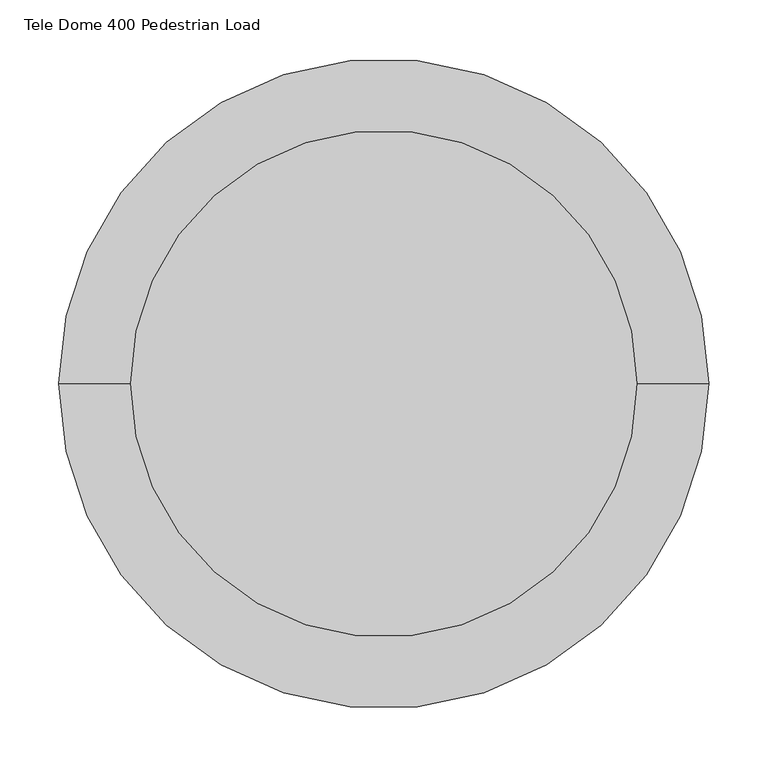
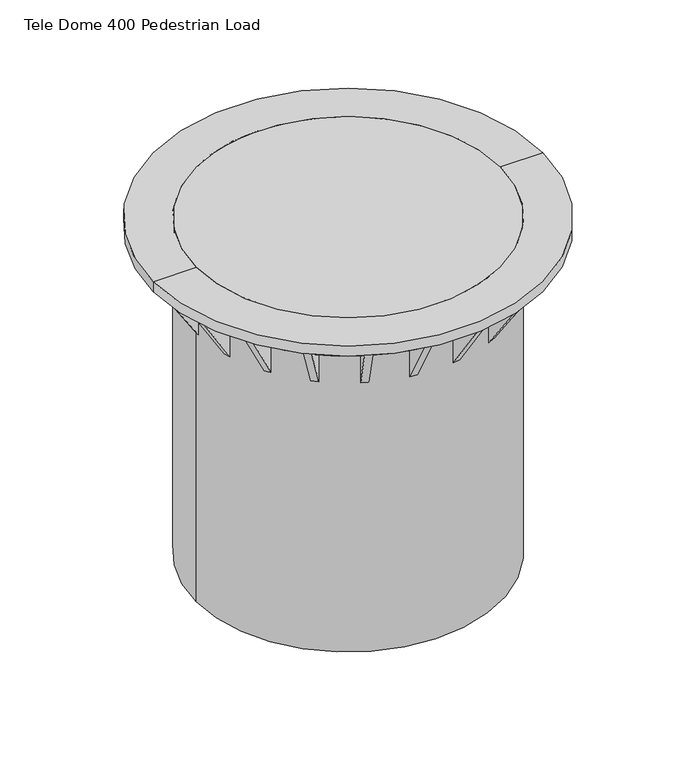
"""IFC4 building model written with IfcOpenShell, lengths in millimetres: proxy geometry, GRAF Tele Dome 400 Pedestrian Load : Tele Dome 400 Pedestrian Load."""

from ifc_helpers import new_model, si_unit, point, frame, origin, origin_2d, place, context, project, spatial, polyline, circle_curve, trimmed, segment, composite_curve, outline, extrude, source, transform, mapped, element, save
from ifc_brep_helpers import plane_surface, cylinder_surface, revolved_surface, advanced_brep


def tele_dome_400_pedestrian_load_5ff1a92a(model_context):
    return source(origin(), model_context, "Body", "SolidModel", [
        advanced_brep(
        [(215.0, 0.0, -14.9500624), (-215.0, 0.0, -14.9500624), (-275.5238115, 0.0, -14.9500624), (275.5238115, 0.0, -14.9500624), (-275.5238115, 0.0, 0.0), (275.5238115, 0.0, 0.0), (-215.0, 0.0, 0.0), (215.0, 0.0, 0.0)],
        [
            (0, 1, circle_curve(frame((0.0, 0.0, -14.9500624), z_axis=(0.0, 0.0, 1.0), x_axis=(-1.0, 0.0, 0.0)), 215.0)),
            (1, 2),
            (2, 3, circle_curve(frame((0.0, 0.0, -14.9500624), z_axis=(0.0, 0.0, -1.0), x_axis=(-1.0, 0.0, 0.0)), 275.5238115)),
            (3, 0),
            (1, 0, circle_curve(frame((0.0, 0.0, -14.9500624), z_axis=(0.0, 0.0, 1.0), x_axis=(-1.0, 0.0, 0.0)), 215.0)),
            (3, 2, circle_curve(frame((0.0, 0.0, -14.9500624), z_axis=(0.0, 0.0, -1.0), x_axis=(-1.0, 0.0, 0.0)), 275.5238115)),
            (2, 4),
            (4, 5, circle_curve(frame((0.0, 0.0, 0.0), z_axis=(0.0, 0.0, -1.0), x_axis=(-1.0, 0.0, 0.0)), 275.5238115)),
            (5, 3),
            (5, 4, circle_curve(frame((0.0, 0.0, 0.0), z_axis=(0.0, 0.0, -1.0), x_axis=(-1.0, 0.0, 0.0)), 275.5238115)),
            (4, 6),
            (6, 7, circle_curve(frame((0.0, 0.0, 0.0), z_axis=(0.0, 0.0, -1.0), x_axis=(-1.0, 0.0, 0.0)), 215.0)),
            (7, 5),
            (7, 6, circle_curve(frame((0.0, 0.0, 0.0), z_axis=(0.0, 0.0, -1.0), x_axis=(-1.0, 0.0, 0.0)), 215.0)),
            (6, 1),
            (0, 7),
        ],
        [
            plane_surface(frame((0.0, 0.0, -14.9500624), z_axis=(0.0, 0.0, -1.0), x_axis=(-1.0, 0.0, 0.0))),
            cylinder_surface(frame((0.0, 0.0, -119.9500624), z_axis=(0.0, 0.0, -1.0), x_axis=(-1.0, 0.0, 0.0)), 275.5238115),
            plane_surface(frame((0.0, 0.0, 0.0), z_axis=(0.0, 0.0, 1.0), x_axis=(-1.0, 0.0, 0.0))),
            revolved_surface(polyline([(-215.0, 0.0, -14.950062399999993), (-215.0, 0.0, 0.0)]), (0.0, 0.0, -119.9500624), (0.0, 0.0, -1.0)),
        ],
        [
            (0, [[1, 2, 3, 4]]),
            (0, [[5, -4, 6, -2]]),
            (1, [[-3, 7, 8, 9]]),
            (1, [[-6, -9, 10, -7]]),
            (2, [[-8, 11, 12, 13]]),
            (2, [[-10, -13, 14, -11]]),
            (3, [[-12, 15, -1, 16]]),
            (3, [[-14, -16, -5, -15]]),
        ],
    ),
        extrude(outline(composite_curve([segment(trimmed(circle_curve(origin_2d(), 215.0), [point((-215.0, 0.0))], [point((215.0, 0.0))], False, "CARTESIAN"), True, "CONTINUOUS"), segment(trimmed(circle_curve(origin_2d(), 215.0), [point((215.0, 0.0))], [point((-215.0, 0.0))], False, "CARTESIAN"), True, "CONTINUOUS")], self_intersect=False), holes=[composite_curve([segment(trimmed(circle_curve(origin_2d(), 202.0), [point((-202.0, 0.0))], [point((202.0, 0.0))], True, "CARTESIAN"), True, "CONTINUOUS"), segment(trimmed(circle_curve(origin_2d(), 202.0), [point((202.0, 0.0))], [point((-202.0, 0.0))], True, "CARTESIAN"), True, "CONTINUOUS")], self_intersect=False)]), frame((0.0, 0.0, -500.0), z_axis=(0.0, 0.0, 1.0), x_axis=(1.0, 0.0, 0.0)), (0.0, 0.0, 1.0), 485.0499376),
        extrude(outline(composite_curve([segment(trimmed(circle_curve(origin_2d(), 215.0), [point((-215.0, 0.0))], [point((215.0, 0.0))], False, "CARTESIAN"), True, "CONTINUOUS"), segment(trimmed(circle_curve(origin_2d(), 215.0), [point((215.0, 0.0))], [point((-215.0, 0.0))], False, "CARTESIAN"), True, "CONTINUOUS")], self_intersect=False)), frame((0.0, 0.0, -14.9500624), z_axis=(0.0, 0.0, 1.0), x_axis=(1.0, 0.0, 0.0)), (0.0, 0.0, 1.0), 14.9500624),
        extrude(outline(polyline([(82.4881085, 0.0), (82.4881085, -53.6625353), (0.0, 0.0), (82.4881085, 0.0)])), frame((-204.8823265, -65.3699646, -97.4381709), z_axis=(-0.28173255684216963, 0.9594929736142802, 0.0), x_axis=(0.0, 0.0, 1.0)), (0.0, 0.0, 1.0), 10.0),
        extrude(outline(polyline([(-14.9500624, -215.0), (-14.9500624, -268.6625353), (-97.4381709, -215.0), (-14.9500624, -215.0)])), frame((0.0, -5.0, 0.0), z_axis=(0.0, 1.0, 0.0), x_axis=(0.0, 0.0, 1.0)), (0.0, 0.0, 1.0), 10.0),
        extrude(outline(polyline([(0.0, 0.0), (53.6625353, 0.0), (0.0, -82.4881085), (0.0, 0.0)])), frame((-207.6996521, 55.7750349, -14.9500624), z_axis=(0.2817325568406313, 0.959492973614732, 0.0), x_axis=(-0.959492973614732, 0.2817325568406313, 0.0)), (0.0, 0.0, 1.0), 10.0),
        extrude(outline(polyline([(0.0, 0.0), (53.6625353, 0.0), (0.0, -82.4881085), (0.0, 0.0)])), frame((-137.0163099, -165.7604622, -14.9500624), z_axis=(-0.7557495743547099, 0.6548607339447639, 0.0), x_axis=(-0.6548607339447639, -0.7557495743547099, 0.0)), (0.0, 0.0, 1.0), 10.0),
        extrude(outline(polyline([(82.4881085, 0.0), (82.4881085, -53.6625353), (0.0, 0.0), (82.4881085, 0.0)])), frame((-178.1663055, -120.4440434, -97.4381709), z_axis=(-0.5406408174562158, 0.841253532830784, 0.0), x_axis=(0.0, 0.0, 1.0)), (0.0, 0.0, 1.0), 10.0),
        extrude(outline(polyline([(82.4881085, 0.0), (82.4881085, -53.6625352), (0.0, 0.0), (82.4881085, 0.0)])), frame((-84.7660678, -197.6479541, -97.4381709), z_axis=(-0.9096319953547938, 0.41541501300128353, 0.0), x_axis=(0.0, 0.0, 1.0)), (0.0, 0.0, 1.0), 10.0),
        extrude(outline(polyline([(82.4881085, 0.0), (82.4881085, -53.6625353), (0.0, 0.0), (82.4881085, 0.0)])), frame((-25.648583, -213.5231842, -97.4381709), z_axis=(-0.9898214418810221, 0.14231483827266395, 0.0), x_axis=(0.0, 0.0, 1.0)), (0.0, 0.0, 1.0), 10.0),
        extrude(outline(polyline([(-14.9500624, 215.0), (-97.4381709, 215.0), (-14.9500624, 268.6625353), (-14.9500624, 215.0)])), frame((0.0, -5.0, 0.0), z_axis=(0.0, 1.0, 0.0), x_axis=(0.0, 0.0, 1.0)), (0.0, 0.0, 1.0), 10.0),
        extrude(outline(polyline([(-82.4881085, 0.0), (0.0, 0.0), (-82.4881085, -53.6625353), (-82.4881085, 0.0)])), frame((207.6996521, 55.7750349, -97.4381709), z_axis=(-0.28173255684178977, 0.9594929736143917, 0.0), x_axis=(0.0, 0.0, -1.0)), (0.0, 0.0, 1.0), 10.0),
        extrude(outline(polyline([(-82.4881085, 0.0), (0.0, 0.0), (-82.4881085, -53.6625353), (-82.4881085, 0.0)])), frame((183.5727136, 112.0315081, -97.4381709), z_axis=(-0.5406408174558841, 0.8412535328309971, 0.0), x_axis=(0.0, 0.0, -1.0)), (0.0, 0.0, 1.0), 10.0),
        extrude(outline(polyline([(-82.4881085, 0.0), (0.0, 0.0), (-82.4881085, -53.6625353), (-82.4881085, 0.0)])), frame((178.1663055, -120.4440434, -97.4381709), z_axis=(0.5406408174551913, 0.8412535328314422, 0.0), x_axis=(0.0, 0.0, -1.0)), (0.0, 0.0, 1.0), 10.0),
        extrude(outline(polyline([(0.0, 0.0), (0.0, -82.4881085), (-53.6625353, 0.0), (0.0, 0.0)])), frame((204.8823265, -65.3699646, -14.9500624), z_axis=(0.2817325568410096, 0.9594929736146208, 0.0), x_axis=(-0.9594929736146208, 0.2817325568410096, 0.0)), (0.0, 0.0, 1.0), 10.0),
        extrude(outline(polyline([(0.0, 0.0), (0.0, -82.4881085), (-53.6625353, 0.0), (0.0, 0.0)])), frame((137.0163099, -165.7604622, -14.9500624), z_axis=(0.7557495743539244, 0.6548607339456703, 0.0), x_axis=(-0.6548607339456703, 0.7557495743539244, 0.0)), (0.0, 0.0, 1.0), 10.0),
        extrude(outline(polyline([(0.0, 0.0), (0.0, -82.4881085), (-53.6625352, 0.0), (0.0, 0.0)])), frame((84.7660678, -197.6479541, -14.9500624), z_axis=(0.909631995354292, 0.4154150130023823, 0.0), x_axis=(-0.4154150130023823, 0.909631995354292, 0.0)), (0.0, 0.0, 1.0), 10.0),
        extrude(outline(polyline([(-82.4881085, 0.0), (0.0, 0.0), (-82.4881085, -53.6625353), (-82.4881085, 0.0)])), frame((25.648583, -213.5231842, -97.4381709), z_axis=(0.9898214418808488, 0.1423148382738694, 0.0), x_axis=(0.0, 0.0, -1.0)), (0.0, 0.0, 1.0), 10.0),
        extrude(outline(polyline([(82.4881085, 0.0), (82.4881085, -53.6625353), (0.0, 0.0), (82.4881085, 0.0)])), frame((-35.5467974, 212.1000358, -97.4381709), z_axis=(0.9898214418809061, 0.1423148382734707, 0.0), x_axis=(0.0, 0.0, 1.0)), (0.0, 0.0, 1.0), 10.0),
        extrude(outline(polyline([(0.0, 0.0), (0.0, -82.4881085), (-53.6625353, 0.0), (0.0, 0.0)])), frame((35.5467974, 212.1000358, -14.9500624), z_axis=(-0.9898214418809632, 0.14231483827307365, 0.0), x_axis=(-0.14231483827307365, -0.9898214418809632, 0.0)), (0.0, 0.0, 1.0), 10.0),
        extrude(outline(polyline([(0.0, 0.0), (0.0, -82.4881085), (-53.6625353, 0.0), (0.0, 0.0)])), frame((93.8623878, 193.4938039, -14.9500624), z_axis=(-0.9096319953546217, 0.41541501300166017, 0.0), x_axis=(-0.41541501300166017, -0.9096319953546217, 0.0)), (0.0, 0.0, 1.0), 10.0),
        extrude(outline(polyline([(-82.4881085, 0.0), (0.0, 0.0), (-82.4881085, -53.6625353), (-82.4881085, 0.0)])), frame((144.5738057, 159.2118548, -97.4381709), z_axis=(-0.7557495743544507, 0.6548607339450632, 0.0), x_axis=(0.0, 0.0, -1.0)), (0.0, 0.0, 1.0), 10.0),
        extrude(outline(polyline([(0.0, 0.0), (53.6625353, 0.0), (0.0, -82.4881085), (0.0, 0.0)])), frame((-144.5738057, 159.2118548, -14.9500624), z_axis=(0.7557495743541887, 0.6548607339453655, 0.0), x_axis=(-0.6548607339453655, 0.7557495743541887, 0.0)), (0.0, 0.0, 1.0), 10.0),
        extrude(outline(polyline([(82.4881085, 0.0), (82.4881085, -53.6625353), (0.0, 0.0), (82.4881085, 0.0)])), frame((-93.8623878, 193.4938039, -97.4381709), z_axis=(0.9096319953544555, 0.4154150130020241, 0.0), x_axis=(0.0, 0.0, 1.0)), (0.0, 0.0, 1.0), 10.0),
        extrude(outline(polyline([(82.4881085, 0.0), (82.4881085, -53.6625353), (0.0, 0.0), (82.4881085, 0.0)])), frame((-183.5727136, 112.0315081, -97.4381709), z_axis=(0.5406408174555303, 0.8412535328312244, 0.0), x_axis=(0.0, 0.0, 1.0)), (0.0, 0.0, 1.0), 10.0),
        extrude(outline(polyline([(82.4881085, 0.0), (82.4881085, -53.6625353), (0.0, 0.0), (82.4881085, 0.0)])), frame((-207.6996521, 55.7750349, -97.4381709), z_axis=(0.28173255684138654, 0.9594929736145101, 0.0), x_axis=(0.0, 0.0, 1.0)), (0.0, 0.0, 1.0), 10.0),
        extrude(outline(polyline([(-14.9500624, -215.0), (-14.9500624, -268.6625353), (-97.4381709, -215.0), (-14.9500624, -215.0)])), frame((0.0, -5.0, 0.0), z_axis=(0.0, 1.0, 0.0), x_axis=(0.0, 0.0, 1.0)), (0.0, 0.0, 1.0), 10.0),
        extrude(outline(composite_curve([segment(polyline([(-214.9418526, 5.0), (-239.947911, 5.0)]), True, "CONTINUOUS"), segment(trimmed(circle_curve(origin_2d(), 240.0), [point((-239.947911, 5.0))], [point((-231.6369974, 62.8036736))], False, "CARTESIAN"), True, "CONTINUOUS"), segment(polyline([(-231.6369974, 62.8036736), (-207.6438601, 55.7586528)]), True, "CONTINUOUS"), segment(trimmed(circle_curve(origin_2d(), 215.0), [point((-207.6438601, 55.7586528))], [point((-214.9418526, 5.0))], True, "CARTESIAN"), True, "CONTINUOUS")], self_intersect=False)), frame((0.0, 0.0, -40.0), z_axis=(0.0, 0.0, 1.0), x_axis=(1.0, 0.0, 0.0)), (0.0, 0.0, 1.0), 25.0499376),
        extrude(outline(composite_curve([segment(trimmed(circle_curve(origin_2d(), 215.0), [point((-183.5237969, 112.0000712))], [point((-204.8265345, 65.3535826))], True, "CARTESIAN"), True, "CONTINUOUS"), segment(polyline([(-204.8265345, 65.3535826), (-228.8196719, 72.3986033)]), True, "CONTINUOUS"), segment(trimmed(circle_curve(origin_2d(), 240.0), [point((-228.8196719, 72.3986033))], [point((-204.5602319, 125.5193671))], False, "CARTESIAN"), True, "CONTINUOUS"), segment(polyline([(-204.5602319, 125.5193671), (-183.5237969, 112.0000712)]), True, "CONTINUOUS")], self_intersect=False)), frame((0.0, 0.0, -40.0), z_axis=(0.0, 0.0, 1.0), x_axis=(1.0, 0.0, 0.0)), (0.0, 0.0, 1.0), 25.0499376),
        extrude(outline(composite_curve([segment(polyline([(-178.1173888, 120.4126066), (-199.1538237, 133.9319024)]), True, "CONTINUOUS"), segment(trimmed(circle_curve(origin_2d(), 240.0), [point((-199.1538237, 133.9319024))], [point((-160.911213, 178.0662279))], False, "CARTESIAN"), True, "CONTINUOUS"), segment(polyline([(-160.911213, 178.0662279), (-144.5357272, 159.1679099)]), True, "CONTINUOUS"), segment(trimmed(circle_curve(origin_2d(), 215.0), [point((-144.5357272, 159.1679099))], [point((-178.1173888, 120.4126066))], True, "CARTESIAN"), True, "CONTINUOUS")], self_intersect=False)), frame((0.0, 0.0, -40.0), z_axis=(0.0, 0.0, 1.0), x_axis=(1.0, 0.0, 0.0)), (0.0, 0.0, 1.0), 25.0499376),
        extrude(outline(composite_curve([segment(trimmed(circle_curve(origin_2d(), 215.0), [point((-93.8382325, 193.4409112))], [point((-136.9782315, 165.7165173))], True, "CARTESIAN"), True, "CONTINUOUS"), segment(polyline([(-136.9782315, 165.7165173), (-153.3537172, 184.6148353)]), True, "CONTINUOUS"), segment(trimmed(circle_curve(origin_2d(), 240.0), [point((-153.3537172, 184.6148353))], [point((-104.2261246, 216.187222))], False, "CARTESIAN"), True, "CONTINUOUS"), segment(polyline([(-104.2261246, 216.187222), (-93.8382325, 193.4409112)]), True, "CONTINUOUS")], self_intersect=False)), frame((0.0, 0.0, -40.0), z_axis=(0.0, 0.0, 1.0), x_axis=(1.0, 0.0, 0.0)), (0.0, 0.0, 1.0), 25.0499376),
        extrude(outline(composite_curve([segment(trimmed(circle_curve(origin_2d(), 215.0), [point((136.9782315, 165.7165173))], [point((93.8382325, 193.4409112))], True, "CARTESIAN"), True, "CONTINUOUS"), segment(polyline([(93.8382325, 193.4409112), (104.2261246, 216.187222)]), True, "CONTINUOUS"), segment(trimmed(circle_curve(origin_2d(), 240.0), [point((104.2261246, 216.187222))], [point((153.3537172, 184.6148353))], False, "CARTESIAN"), True, "CONTINUOUS"), segment(polyline([(153.3537172, 184.6148353), (136.9782315, 165.7165173)]), True, "CONTINUOUS")], self_intersect=False)), frame((0.0, 0.0, -40.0), z_axis=(0.0, 0.0, 1.0), x_axis=(1.0, 0.0, 0.0)), (0.0, 0.0, 1.0), 25.0499376),
        extrude(outline(composite_curve([segment(polyline([(35.5385222, 212.0424803), (39.0972554, 236.7940131)]), True, "CONTINUOUS"), segment(trimmed(circle_curve(origin_2d(), 240.0), [point((39.0972554, 236.7940131))], [point((95.1298046, 220.3413721))], False, "CARTESIAN"), True, "CONTINUOUS"), segment(polyline([(95.1298046, 220.3413721), (84.7419125, 197.5950613)]), True, "CONTINUOUS"), segment(trimmed(circle_curve(origin_2d(), 215.0), [point((84.7419125, 197.5950613))], [point((35.5385222, 212.0424803))], True, "CARTESIAN"), True, "CONTINUOUS")], self_intersect=False)), frame((0.0, 0.0, -40.0), z_axis=(0.0, 0.0, 1.0), x_axis=(1.0, 0.0, 0.0)), (0.0, 0.0, 1.0), 25.0499376),
        extrude(outline(composite_curve([segment(trimmed(circle_curve(origin_2d(), 215.0), [point((25.6403078, 213.4656287))], [point((-25.6403078, 213.4656287))], True, "CARTESIAN"), True, "CONTINUOUS"), segment(polyline([(-25.6403078, 213.4656287), (-29.1990409, 238.2171614)]), True, "CONTINUOUS"), segment(trimmed(circle_curve(origin_2d(), 240.0), [point((-29.1990409, 238.2171614))], [point((29.1990409, 238.2171614))], False, "CARTESIAN"), True, "CONTINUOUS"), segment(polyline([(29.1990409, 238.2171614), (25.6403078, 213.4656287)]), True, "CONTINUOUS")], self_intersect=False)), frame((0.0, 0.0, -40.0), z_axis=(0.0, 0.0, 1.0), x_axis=(1.0, 0.0, 0.0)), (0.0, 0.0, 1.0), 25.0499376),
        extrude(outline(composite_curve([segment(polyline([(-84.7419125, 197.5950613), (-95.1298046, 220.3413721)]), True, "CONTINUOUS"), segment(trimmed(circle_curve(origin_2d(), 240.0), [point((-95.1298046, 220.3413721))], [point((-39.0972554, 236.7940131))], False, "CARTESIAN"), True, "CONTINUOUS"), segment(polyline([(-39.0972554, 236.7940131), (-35.5385222, 212.0424803)]), True, "CONTINUOUS"), segment(trimmed(circle_curve(origin_2d(), 215.0), [point((-35.5385222, 212.0424803))], [point((-84.7419125, 197.5950613))], True, "CARTESIAN"), True, "CONTINUOUS")], self_intersect=False)), frame((0.0, 0.0, -40.0), z_axis=(0.0, 0.0, 1.0), x_axis=(1.0, 0.0, 0.0)), (0.0, 0.0, 1.0), 25.0499376),
        extrude(outline(composite_curve([segment(trimmed(circle_curve(origin_2d(), 215.0), [point((35.5385222, -212.0424803))], [point((84.7419125, -197.5950613))], True, "CARTESIAN"), True, "CONTINUOUS"), segment(polyline([(84.7419125, -197.5950613), (95.1298046, -220.3413721)]), True, "CONTINUOUS"), segment(trimmed(circle_curve(origin_2d(), 240.0), [point((95.1298046, -220.3413721))], [point((39.0972554, -236.7940131))], False, "CARTESIAN"), True, "CONTINUOUS"), segment(polyline([(39.0972554, -236.7940131), (35.5385222, -212.0424803)]), True, "CONTINUOUS")], self_intersect=False)), frame((0.0, 0.0, -40.0), z_axis=(0.0, 0.0, 1.0), x_axis=(1.0, 0.0, 0.0)), (0.0, 0.0, 1.0), 25.0499376),
        extrude(outline(composite_curve([segment(polyline([(136.9782315, -165.7165173), (153.3537172, -184.6148353)]), True, "CONTINUOUS"), segment(trimmed(circle_curve(origin_2d(), 240.0), [point((153.3537172, -184.6148353))], [point((104.2261246, -216.187222))], False, "CARTESIAN"), True, "CONTINUOUS"), segment(polyline([(104.2261246, -216.187222), (93.8382325, -193.4409112)]), True, "CONTINUOUS"), segment(trimmed(circle_curve(origin_2d(), 215.0), [point((93.8382325, -193.4409112))], [point((136.9782315, -165.7165173))], True, "CARTESIAN"), True, "CONTINUOUS")], self_intersect=False)), frame((0.0, 0.0, -40.0), z_axis=(0.0, 0.0, 1.0), x_axis=(1.0, 0.0, 0.0)), (0.0, 0.0, 1.0), 25.0499376),
        extrude(outline(composite_curve([segment(trimmed(circle_curve(origin_2d(), 215.0), [point((144.5357272, -159.1679099))], [point((178.1173888, -120.4126066))], True, "CARTESIAN"), True, "CONTINUOUS"), segment(polyline([(178.1173888, -120.4126066), (199.1538237, -133.9319024)]), True, "CONTINUOUS"), segment(trimmed(circle_curve(origin_2d(), 240.0), [point((199.1538237, -133.9319024))], [point((160.911213, -178.0662279))], False, "CARTESIAN"), True, "CONTINUOUS"), segment(polyline([(160.911213, -178.0662279), (144.5357272, -159.1679099)]), True, "CONTINUOUS")], self_intersect=False)), frame((0.0, 0.0, -40.0), z_axis=(0.0, 0.0, 1.0), x_axis=(1.0, 0.0, 0.0)), (0.0, 0.0, 1.0), 25.0499376),
        extrude(outline(composite_curve([segment(polyline([(204.8265345, -65.3535826), (228.8196719, -72.3986033)]), True, "CONTINUOUS"), segment(trimmed(circle_curve(origin_2d(), 240.0), [point((228.8196719, -72.3986033))], [point((204.5602319, -125.5193671))], False, "CARTESIAN"), True, "CONTINUOUS"), segment(polyline([(204.5602319, -125.5193671), (183.5237969, -112.0000712)]), True, "CONTINUOUS"), segment(trimmed(circle_curve(origin_2d(), 215.0), [point((183.5237969, -112.0000712))], [point((204.8265345, -65.3535826))], True, "CARTESIAN"), True, "CONTINUOUS")], self_intersect=False)), frame((0.0, 0.0, -40.0), z_axis=(0.0, 0.0, 1.0), x_axis=(1.0, 0.0, 0.0)), (0.0, 0.0, 1.0), 25.0499376),
        extrude(outline(composite_curve([segment(polyline([(144.5357272, 159.1679099), (160.911213, 178.0662279)]), True, "CONTINUOUS"), segment(trimmed(circle_curve(origin_2d(), 240.0), [point((160.911213, 178.0662279))], [point((199.1538237, 133.9319024))], False, "CARTESIAN"), True, "CONTINUOUS"), segment(polyline([(199.1538237, 133.9319024), (178.1173888, 120.4126066)]), True, "CONTINUOUS"), segment(trimmed(circle_curve(origin_2d(), 215.0), [point((178.1173888, 120.4126066))], [point((144.5357272, 159.1679099))], True, "CARTESIAN"), True, "CONTINUOUS")], self_intersect=False)), frame((0.0, 0.0, -40.0), z_axis=(0.0, 0.0, 1.0), x_axis=(1.0, 0.0, 0.0)), (0.0, 0.0, 1.0), 25.0499376),
        extrude(outline(composite_curve([segment(trimmed(circle_curve(origin_2d(), 215.0), [point((204.8265345, 65.3535826))], [point((183.5237969, 112.0000712))], True, "CARTESIAN"), True, "CONTINUOUS"), segment(polyline([(183.5237969, 112.0000712), (204.5602319, 125.5193671)]), True, "CONTINUOUS"), segment(trimmed(circle_curve(origin_2d(), 240.0), [point((204.5602319, 125.5193671))], [point((228.8196719, 72.3986033))], False, "CARTESIAN"), True, "CONTINUOUS"), segment(polyline([(228.8196719, 72.3986033), (204.8265345, 65.3535826)]), True, "CONTINUOUS")], self_intersect=False)), frame((0.0, 0.0, -40.0), z_axis=(0.0, 0.0, 1.0), x_axis=(1.0, 0.0, 0.0)), (0.0, 0.0, 1.0), 25.0499376),
        extrude(outline(composite_curve([segment(polyline([(207.6438601, 55.7586528), (231.6369974, 62.8036736)]), True, "CONTINUOUS"), segment(trimmed(circle_curve(origin_2d(), 240.0), [point((231.6369974, 62.8036736))], [point((239.947911, 5.0))], False, "CARTESIAN"), True, "CONTINUOUS"), segment(polyline([(239.947911, 5.0), (214.9418526, 5.0)]), True, "CONTINUOUS"), segment(trimmed(circle_curve(origin_2d(), 215.0), [point((214.9418526, 5.0))], [point((207.6438601, 55.7586528))], True, "CARTESIAN"), True, "CONTINUOUS")], self_intersect=False)), frame((0.0, 0.0, -40.0), z_axis=(0.0, 0.0, 1.0), x_axis=(1.0, 0.0, 0.0)), (0.0, 0.0, 1.0), 25.0499376),
        extrude(outline(composite_curve([segment(trimmed(circle_curve(origin_2d(), 215.0), [point((207.6438601, -55.7586528))], [point((214.9418526, -5.0))], True, "CARTESIAN"), True, "CONTINUOUS"), segment(polyline([(214.9418526, -5.0), (239.947911, -5.0)]), True, "CONTINUOUS"), segment(trimmed(circle_curve(origin_2d(), 240.0), [point((239.947911, -5.0))], [point((231.6369974, -62.8036736))], False, "CARTESIAN"), True, "CONTINUOUS"), segment(polyline([(231.6369974, -62.8036736), (207.6438601, -55.7586528)]), True, "CONTINUOUS")], self_intersect=False)), frame((0.0, 0.0, -40.0), z_axis=(0.0, 0.0, 1.0), x_axis=(1.0, 0.0, 0.0)), (0.0, 0.0, 1.0), 25.0499376),
        extrude(outline(composite_curve([segment(polyline([(25.6403078, -213.4656287), (29.1990409, -238.2171614)]), True, "CONTINUOUS"), segment(trimmed(circle_curve(origin_2d(), 240.0), [point((29.1990409, -238.2171614))], [point((-29.1990409, -238.2171614))], False, "CARTESIAN"), True, "CONTINUOUS"), segment(polyline([(-29.1990409, -238.2171614), (-25.6403078, -213.4656287)]), True, "CONTINUOUS"), segment(trimmed(circle_curve(origin_2d(), 215.0), [point((-25.6403078, -213.4656287))], [point((25.6403078, -213.4656287))], True, "CARTESIAN"), True, "CONTINUOUS")], self_intersect=False)), frame((0.0, 0.0, -40.0), z_axis=(0.0, 0.0, 1.0), x_axis=(1.0, 0.0, 0.0)), (0.0, 0.0, 1.0), 25.0499376),
        extrude(outline(composite_curve([segment(trimmed(circle_curve(origin_2d(), 215.0), [point((-84.7419125, -197.5950613))], [point((-35.5385222, -212.0424803))], True, "CARTESIAN"), True, "CONTINUOUS"), segment(polyline([(-35.5385222, -212.0424803), (-39.0972554, -236.7940131)]), True, "CONTINUOUS"), segment(trimmed(circle_curve(origin_2d(), 240.0), [point((-39.0972554, -236.7940131))], [point((-95.1298046, -220.3413721))], False, "CARTESIAN"), True, "CONTINUOUS"), segment(polyline([(-95.1298046, -220.3413721), (-84.7419125, -197.5950613)]), True, "CONTINUOUS")], self_intersect=False)), frame((0.0, 0.0, -40.0), z_axis=(0.0, 0.0, 1.0), x_axis=(1.0, 0.0, 0.0)), (0.0, 0.0, 1.0), 25.0499376),
        extrude(outline(composite_curve([segment(polyline([(-93.8382325, -193.4409112), (-104.2261246, -216.187222)]), True, "CONTINUOUS"), segment(trimmed(circle_curve(origin_2d(), 240.0), [point((-104.2261246, -216.187222))], [point((-153.3537172, -184.6148353))], False, "CARTESIAN"), True, "CONTINUOUS"), segment(polyline([(-153.3537172, -184.6148353), (-136.9782315, -165.7165173)]), True, "CONTINUOUS"), segment(trimmed(circle_curve(origin_2d(), 215.0), [point((-136.9782315, -165.7165173))], [point((-93.8382325, -193.4409112))], True, "CARTESIAN"), True, "CONTINUOUS")], self_intersect=False)), frame((0.0, 0.0, -40.0), z_axis=(0.0, 0.0, 1.0), x_axis=(1.0, 0.0, 0.0)), (0.0, 0.0, 1.0), 25.0499376),
        extrude(outline(composite_curve([segment(trimmed(circle_curve(origin_2d(), 215.0), [point((-178.1173888, -120.4126066))], [point((-144.5357272, -159.1679099))], True, "CARTESIAN"), True, "CONTINUOUS"), segment(polyline([(-144.5357272, -159.1679099), (-160.911213, -178.0662279)]), True, "CONTINUOUS"), segment(trimmed(circle_curve(origin_2d(), 240.0), [point((-160.911213, -178.0662279))], [point((-199.1538237, -133.9319024))], False, "CARTESIAN"), True, "CONTINUOUS"), segment(polyline([(-199.1538237, -133.9319024), (-178.1173888, -120.4126066)]), True, "CONTINUOUS")], self_intersect=False)), frame((0.0, 0.0, -40.0), z_axis=(0.0, 0.0, 1.0), x_axis=(1.0, 0.0, 0.0)), (0.0, 0.0, 1.0), 25.0499376),
        extrude(outline(composite_curve([segment(polyline([(-183.5237969, -112.0000712), (-204.5602319, -125.5193671)]), True, "CONTINUOUS"), segment(trimmed(circle_curve(origin_2d(), 240.0), [point((-204.5602319, -125.5193671))], [point((-228.8196719, -72.3986033))], False, "CARTESIAN"), True, "CONTINUOUS"), segment(polyline([(-228.8196719, -72.3986033), (-204.8265345, -65.3535826)]), True, "CONTINUOUS"), segment(trimmed(circle_curve(origin_2d(), 215.0), [point((-204.8265345, -65.3535826))], [point((-183.5237969, -112.0000712))], True, "CARTESIAN"), True, "CONTINUOUS")], self_intersect=False)), frame((0.0, 0.0, -40.0), z_axis=(0.0, 0.0, 1.0), x_axis=(1.0, 0.0, 0.0)), (0.0, 0.0, 1.0), 25.0499376),
        extrude(outline(composite_curve([segment(trimmed(circle_curve(origin_2d(), 215.0), [point((-214.9418526, -5.0))], [point((-207.6438601, -55.7586528))], True, "CARTESIAN"), True, "CONTINUOUS"), segment(polyline([(-207.6438601, -55.7586528), (-231.6369974, -62.8036736)]), True, "CONTINUOUS"), segment(trimmed(circle_curve(origin_2d(), 240.0), [point((-231.6369974, -62.8036736))], [point((-239.947911, -5.0))], False, "CARTESIAN"), True, "CONTINUOUS"), segment(polyline([(-239.947911, -5.0), (-214.9418526, -5.0)]), True, "CONTINUOUS")], self_intersect=False)), frame((0.0, 0.0, -40.0), z_axis=(0.0, 0.0, 1.0), x_axis=(1.0, 0.0, 0.0)), (0.0, 0.0, 1.0), 25.0499376),
    ])


if __name__ == "__main__":
    model = new_model("IFC4")
    model_context = context("Model", 3, world=origin())
    ifc_project = project(units=[si_unit("LENGTHUNIT", "METRE", prefix="MILLI")], contexts=[model_context])
    site = spatial("IfcSite", under=ifc_project)
    building = spatial("IfcBuilding", under=site)
    placement = place(None, origin())
    tele_dome_400_pedestrian_load_shape = tele_dome_400_pedestrian_load_5ff1a92a(model_context)
    element("IfcBuildingElementProxy", 1, Name="GRAF Tele Dome 400 Pedestrian Load : Tele Dome 400 Pedestrian Load", ObjectType="GRAF Tele Dome 400 Pedestrian Load : Tele Dome 400 Pedestrian Load", at=placement, inside=building, context=model_context, shape_type="MappedRepresentation", body=[
        mapped(tele_dome_400_pedestrian_load_shape, transform((0.0, 0.0, 0.0), x_axis=(1.0, 0.0, 0.0), y_axis=(0.0, 1.0, 0.0), z_axis=(0.0, 0.0, 1.0))),
    ])
    save(model, "model.ifc")
